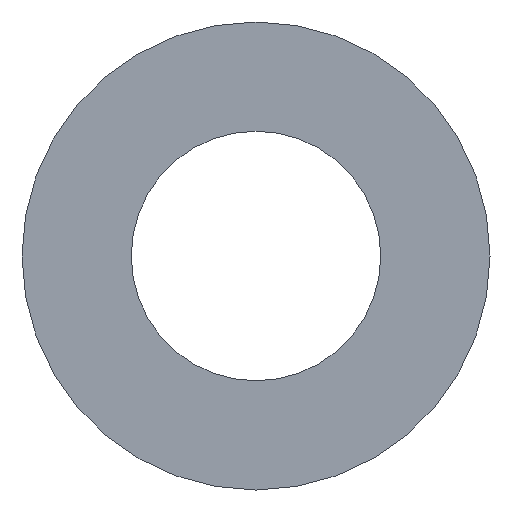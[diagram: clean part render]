
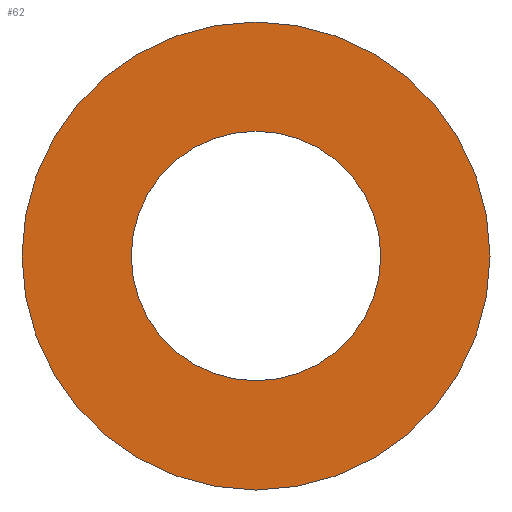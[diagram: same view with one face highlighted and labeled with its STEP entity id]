
A CAD part, left-side view. The second image highlights one B-rep face of the part: STEP entity #62.
In plain terms, the highlighted planar face has unit normal (-1, 0, 0).
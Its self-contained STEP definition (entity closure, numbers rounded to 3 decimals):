
#15=FACE_BOUND('',#25,.T.);
#17=PLANE('',#91);
#20=FACE_OUTER_BOUND('',#24,.T.);
#24=EDGE_LOOP('',(#51));
#25=EDGE_LOOP('',(#52));
#34=CIRCLE('',#90,3.2);
#35=CIRCLE('',#92,6.);
#38=VERTEX_POINT('',#120);
#39=VERTEX_POINT('',#124);
#43=EDGE_CURVE('',#38,#38,#34,.T.);
#44=EDGE_CURVE('',#39,#39,#35,.T.);
#51=ORIENTED_EDGE('',*,*,#44,.T.);
#52=ORIENTED_EDGE('',*,*,#43,.T.);
#62=ADVANCED_FACE('',(#20,#15),#17,.F.);
#90=AXIS2_PLACEMENT_3D('',#122,#103,#104);
#91=AXIS2_PLACEMENT_3D('',#123,#105,#106);
#92=AXIS2_PLACEMENT_3D('',#125,#107,#108);
#103=DIRECTION('center_axis',(1.,0.,0.));
#104=DIRECTION('ref_axis',(0.,0.,-1.));
#105=DIRECTION('center_axis',(1.,0.,0.));
#106=DIRECTION('ref_axis',(0.,0.,-1.));
#107=DIRECTION('center_axis',(-1.,0.,0.));
#108=DIRECTION('ref_axis',(0.,1.,0.));
#120=CARTESIAN_POINT('',(-1.,0.,3.2));
#122=CARTESIAN_POINT('Origin',(-1.,0.,0.));
#123=CARTESIAN_POINT('Origin',(-1.,0.,0.));
#124=CARTESIAN_POINT('',(-1.,-6.,0.));
#125=CARTESIAN_POINT('Origin',(-1.,0.,0.));
